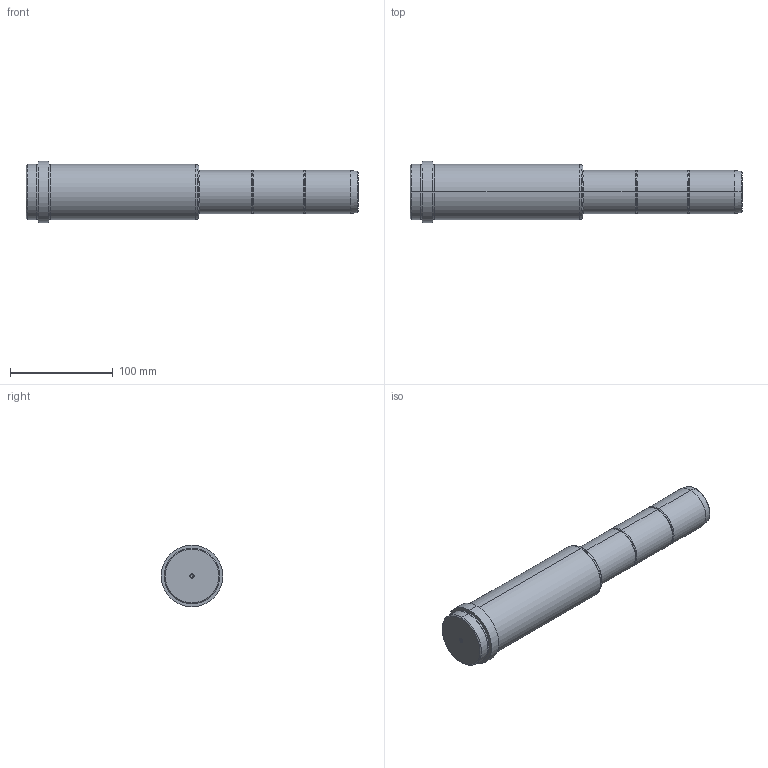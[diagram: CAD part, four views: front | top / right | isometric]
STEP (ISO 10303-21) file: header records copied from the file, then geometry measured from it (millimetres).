
FILE_DESCRIPTION( ( 'STEP AP203' ), '1' );
FILE_NAME( 'C:/Projects/D03 - 42x156x155.step', '2003-01-01T00:16:14', ( ' ' ), ( ' ' ), 'XStep 1.0', ' ', ' ' );
FILE_SCHEMA( ( 'CONFIG_CONTROL_DESIGN' ) );
Length unit declared in the file: metre
Products named in the file (1): 1
Bounding box: 323 x 60 x 60 mm (x, y, z)
Volume: 603596.5 mm3; surface area: 54761.1 mm2
Topology: 1 solids, 1 shells, 56 faces, 112 edges, 64 vertices
Faces by surface type: revolution 36, bspline 20
Entity records: 1691 total; most frequent: CARTESIAN_POINT 513, ORIENTED_EDGE 220, DIRECTION 218, EDGE_CURVE 110, AXIS2_PLACEMENT_3D 73, CIRCLE 72, EDGE_LOOP 64, VERTEX_POINT 64
